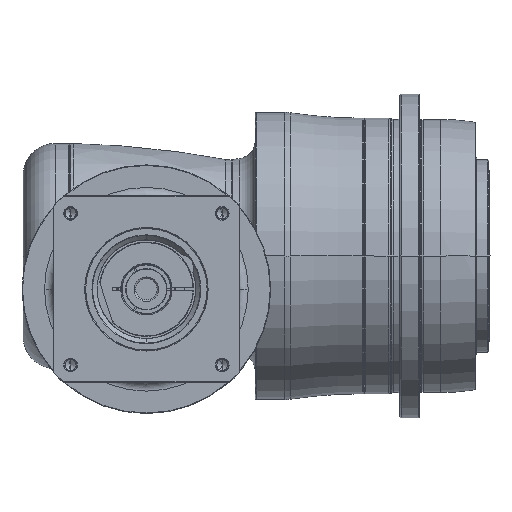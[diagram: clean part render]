
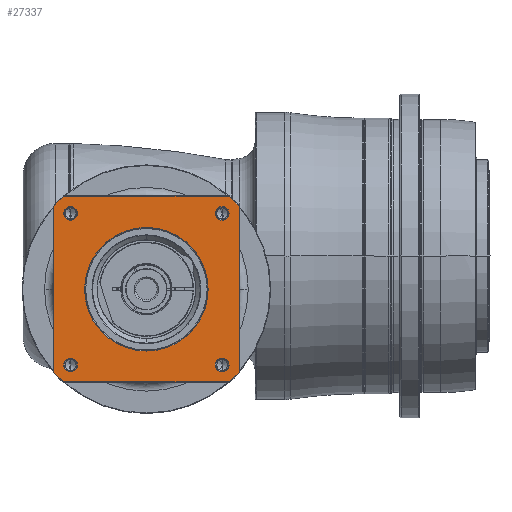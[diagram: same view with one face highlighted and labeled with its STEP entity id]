
A CAD part, front view. The second image highlights one B-rep face of the part: STEP entity #27337.
In plain terms, the highlighted planar face has unit normal (0, -1, 0) as drawn and (0, 0, 1) by its records, which use the part's own axes.
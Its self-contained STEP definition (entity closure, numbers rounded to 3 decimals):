
#26088=CARTESIAN_POINT('',(0.,0.,
76.));
#26089=DIRECTION('',(0.,0.,-1.));
#26090=DIRECTION('',(0.,-1.,0.));
#26091=AXIS2_PLACEMENT_3D('',#26088,#26089,#26090);
#26093=CARTESIAN_POINT('',(0.,0.,
76.));
#26094=DIRECTION('',(0.,0.,-1.));
#26095=DIRECTION('',(0.,1.,0.));
#26096=AXIS2_PLACEMENT_3D('',#26093,#26094,#26095);
#26098=CARTESIAN_POINT('',(0.,0.,76.));
#26099=DIRECTION('',(0.,0.,1.));
#26100=DIRECTION('',(-0.746,-0.666,0.));
#26101=AXIS2_PLACEMENT_3D('',#26098,#26099,#26100);
#26113=DIRECTION('',(1.,0.,0.));
#26114=VECTOR('',#26113,154.58);
#26115=CARTESIAN_POINT('',(-77.29,-86.5,76.));
#26116=LINE('',#26115,#26114);
#26126=CARTESIAN_POINT('',(0.,0.,76.));
#26127=DIRECTION('',(0.,0.,1.));
#26128=DIRECTION('',(0.666,-0.746,0.));
#26129=AXIS2_PLACEMENT_3D('',#26126,#26127,#26128);
#26141=DIRECTION('',(0.,1.,0.));
#26142=VECTOR('',#26141,154.58);
#26143=CARTESIAN_POINT('',(86.5,-77.29,76.));
#26144=LINE('',#26143,#26142);
#26154=CARTESIAN_POINT('',(0.,0.,76.));
#26155=DIRECTION('',(0.,0.,1.));
#26156=DIRECTION('',(0.746,0.666,0.));
#26157=AXIS2_PLACEMENT_3D('',#26154,#26155,#26156);
#26169=DIRECTION('',(-1.,0.,0.));
#26170=VECTOR('',#26169,154.58);
#26171=CARTESIAN_POINT('',(77.29,86.5,76.));
#26172=LINE('',#26171,#26170);
#26177=CARTESIAN_POINT('',(0.,0.,76.));
#26178=DIRECTION('',(0.,0.,1.));
#26179=DIRECTION('',(-0.666,0.746,0.));
#26180=AXIS2_PLACEMENT_3D('',#26177,#26178,#26179);
#26197=DIRECTION('',(0.,-1.,0.));
#26198=VECTOR('',#26197,154.58);
#26199=CARTESIAN_POINT('',(-86.5,77.29,76.));
#26200=LINE('',#26199,#26198);
#26283=CARTESIAN_POINT('',(-70.711,70.711,76.));
#26284=DIRECTION('',(0.,0.,1.));
#26285=DIRECTION('',(-1.,0.,0.));
#26286=AXIS2_PLACEMENT_3D('',#26283,#26284,#26285);
#26301=CARTESIAN_POINT('',(-70.711,70.711,76.));
#26302=DIRECTION('',(0.,0.,1.));
#26303=DIRECTION('',(1.,0.,0.));
#26304=AXIS2_PLACEMENT_3D('',#26301,#26302,#26303);
#26337=CARTESIAN_POINT('',(70.711,70.711,76.));
#26338=DIRECTION('',(0.,0.,1.));
#26339=DIRECTION('',(-1.,0.,0.));
#26340=AXIS2_PLACEMENT_3D('',#26337,#26338,#26339);
#26355=CARTESIAN_POINT('',(70.711,70.711,76.));
#26356=DIRECTION('',(0.,0.,1.));
#26357=DIRECTION('',(1.,0.,0.));
#26358=AXIS2_PLACEMENT_3D('',#26355,#26356,#26357);
#26391=CARTESIAN_POINT('',(70.711,-70.711,76.));
#26392=DIRECTION('',(0.,0.,1.));
#26393=DIRECTION('',(-1.,0.,0.));
#26394=AXIS2_PLACEMENT_3D('',#26391,#26392,#26393);
#26409=CARTESIAN_POINT('',(70.711,-70.711,76.));
#26410=DIRECTION('',(0.,0.,1.));
#26411=DIRECTION('',(1.,0.,0.));
#26412=AXIS2_PLACEMENT_3D('',#26409,#26410,#26411);
#26445=CARTESIAN_POINT('',(-70.711,-70.711,76.));
#26446=DIRECTION('',(0.,0.,1.));
#26447=DIRECTION('',(-1.,0.,0.));
#26448=AXIS2_PLACEMENT_3D('',#26445,#26446,#26447);
#26463=CARTESIAN_POINT('',(-70.711,-70.711,76.));
#26464=DIRECTION('',(0.,0.,1.));
#26465=DIRECTION('',(1.,0.,0.));
#26466=AXIS2_PLACEMENT_3D('',#26463,#26464,#26465);
#26595=CARTESIAN_POINT('',(86.5,-77.29,76.));
#26596=CARTESIAN_POINT('',(86.5,77.29,76.));
#26597=VERTEX_POINT('',#26595);
#26598=VERTEX_POINT('',#26596);
#26603=CARTESIAN_POINT('',(77.29,-86.5,76.));
#26604=VERTEX_POINT('',#26603);
#26607=CARTESIAN_POINT('',(-77.29,-86.5,76.));
#26608=VERTEX_POINT('',#26607);
#26611=CARTESIAN_POINT('',(-86.5,-77.29,76.));
#26612=VERTEX_POINT('',#26611);
#26615=CARTESIAN_POINT('',(-86.5,77.29,76.));
#26616=VERTEX_POINT('',#26615);
#26619=CARTESIAN_POINT('',(-77.29,86.5,76.));
#26620=VERTEX_POINT('',#26619);
#26623=CARTESIAN_POINT('',(77.29,86.5,76.));
#26624=VERTEX_POINT('',#26623);
#26633=CARTESIAN_POINT('',(-77.111,70.711,76.));
#26634=CARTESIAN_POINT('',(-64.311,70.711,76.));
#26635=VERTEX_POINT('',#26633);
#26636=VERTEX_POINT('',#26634);
#26659=CARTESIAN_POINT('',(77.111,70.711,76.));
#26660=CARTESIAN_POINT('',(64.311,70.711,76.));
#26661=VERTEX_POINT('',#26659);
#26662=VERTEX_POINT('',#26660);
#26667=CARTESIAN_POINT('',(77.111,-70.711,76.));
#26668=CARTESIAN_POINT('',(64.311,-70.711,76.));
#26669=VERTEX_POINT('',#26667);
#26670=VERTEX_POINT('',#26668);
#26675=CARTESIAN_POINT('',(-64.311,-70.711,76.));
#26676=CARTESIAN_POINT('',(-77.111,-70.711,76.));
#26677=VERTEX_POINT('',#26675);
#26678=VERTEX_POINT('',#26676);
#26683=CARTESIAN_POINT('',(0.,-57.65,76.));
#26684=CARTESIAN_POINT('',(0.,57.65,
76.));
#26685=VERTEX_POINT('',#26683);
#26686=VERTEX_POINT('',#26684);
#27285=CARTESIAN_POINT('',(0.,0.,76.));
#27286=DIRECTION('',(0.,0.,1.));
#27287=DIRECTION('',(1.,0.,0.));
#27288=AXIS2_PLACEMENT_3D('',#27285,#27286,#27287);
#27289=PLANE('',#27288);
#27291=ORIENTED_EDGE('',*,*,#27290,.F.);
#27293=ORIENTED_EDGE('',*,*,#27292,.F.);
#27295=ORIENTED_EDGE('',*,*,#27294,.F.);
#27297=ORIENTED_EDGE('',*,*,#27296,.F.);
#27299=ORIENTED_EDGE('',*,*,#27298,.F.);
#27301=ORIENTED_EDGE('',*,*,#27300,.F.);
#27303=ORIENTED_EDGE('',*,*,#27302,.F.);
#27305=ORIENTED_EDGE('',*,*,#27304,.F.);
#27306=EDGE_LOOP('',(#27291,#27293,#27295,#27297,#27299,#27301,#27303,#27305));
#27307=FACE_OUTER_BOUND('',#27306,.F.);
#27308=ORIENTED_EDGE('',*,*,#27275,.F.);
#27310=ORIENTED_EDGE('',*,*,#27309,.F.);
#27311=EDGE_LOOP('',(#27308,#27310));
#27312=FACE_BOUND('',#27311,.F.);
#27314=ORIENTED_EDGE('',*,*,#27313,.T.);
#27316=ORIENTED_EDGE('',*,*,#27315,.T.);
#27317=EDGE_LOOP('',(#27314,#27316));
#27318=FACE_BOUND('',#27317,.F.);
#27320=ORIENTED_EDGE('',*,*,#27319,.T.);
#27322=ORIENTED_EDGE('',*,*,#27321,.T.);
#27323=EDGE_LOOP('',(#27320,#27322));
#27324=FACE_BOUND('',#27323,.F.);
#27326=ORIENTED_EDGE('',*,*,#27325,.T.);
#27328=ORIENTED_EDGE('',*,*,#27327,.T.);
#27329=EDGE_LOOP('',(#27326,#27328));
#27330=FACE_BOUND('',#27329,.F.);
#27332=ORIENTED_EDGE('',*,*,#27331,.T.);
#27334=ORIENTED_EDGE('',*,*,#27333,.T.);
#27335=EDGE_LOOP('',(#27332,#27334));
#27336=FACE_BOUND('',#27335,.F.);
#27337=ADVANCED_FACE('',(#27307,#27312,#27318,#27324,#27330,#27336),#27289,.T.);
#26092=CIRCLE('',#26091,57.65);
#26097=CIRCLE('',#26096,57.65);
#26102=CIRCLE('',#26101,116.);
#26130=CIRCLE('',#26129,116.);
#26158=CIRCLE('',#26157,116.);
#26181=CIRCLE('',#26180,116.);
#26287=CIRCLE('',#26286,6.4);
#26305=CIRCLE('',#26304,6.4);
#26341=CIRCLE('',#26340,6.4);
#26359=CIRCLE('',#26358,6.4);
#26395=CIRCLE('',#26394,6.4);
#26413=CIRCLE('',#26412,6.4);
#26449=CIRCLE('',#26448,6.4);
#26467=CIRCLE('',#26466,6.4);
#27275=EDGE_CURVE('',#26685,#26686,#26092,.T.);
#27290=EDGE_CURVE('',#26612,#26608,#26102,.T.);
#27292=EDGE_CURVE('',#26616,#26612,#26200,.T.);
#27294=EDGE_CURVE('',#26620,#26616,#26181,.T.);
#27296=EDGE_CURVE('',#26624,#26620,#26172,.T.);
#27298=EDGE_CURVE('',#26598,#26624,#26158,.T.);
#27300=EDGE_CURVE('',#26597,#26598,#26144,.T.);
#27302=EDGE_CURVE('',#26604,#26597,#26130,.T.);
#27304=EDGE_CURVE('',#26608,#26604,#26116,.T.);
#27309=EDGE_CURVE('',#26686,#26685,#26097,.T.);
#27313=EDGE_CURVE('',#26635,#26636,#26287,.T.);
#27315=EDGE_CURVE('',#26636,#26635,#26305,.T.);
#27319=EDGE_CURVE('',#26662,#26661,#26341,.T.);
#27321=EDGE_CURVE('',#26661,#26662,#26359,.T.);
#27325=EDGE_CURVE('',#26670,#26669,#26395,.T.);
#27327=EDGE_CURVE('',#26669,#26670,#26413,.T.);
#27331=EDGE_CURVE('',#26678,#26677,#26449,.T.);
#27333=EDGE_CURVE('',#26677,#26678,#26467,.T.);
